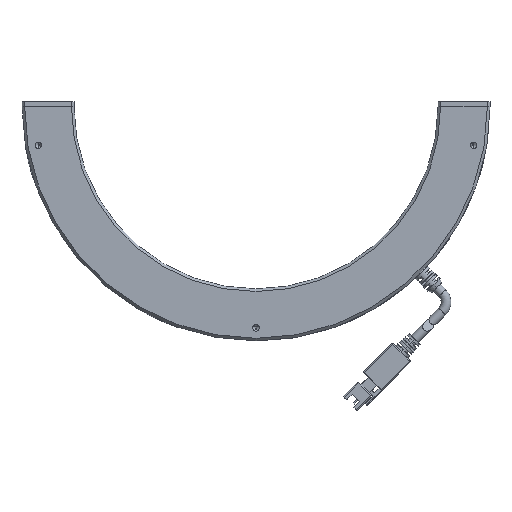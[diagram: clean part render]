
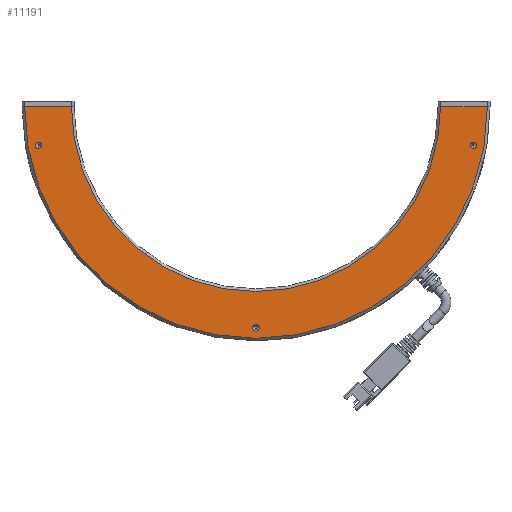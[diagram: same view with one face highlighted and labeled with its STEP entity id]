
A CAD part, front view. The second image highlights one B-rep face of the part: STEP entity #11191.
In plain terms, the highlighted planar face has unit normal (0, -1, 0).
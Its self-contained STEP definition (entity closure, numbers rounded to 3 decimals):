
#594 = DIRECTION ( 'NONE',  ( 0., -1., 0. ) ) ;
#683 = ORIENTED_EDGE ( 'NONE', *, *, #14568, .F. ) ;
#1038 = CARTESIAN_POINT ( 'NONE',  ( 0., 0., -71. ) ) ;
#1086 = DIRECTION ( 'NONE',  ( 0., 0., -1. ) ) ;
#1099 = CIRCLE ( 'NONE', #9356, 89. ) ;
#1392 = VERTEX_POINT ( 'NONE', #5574 ) ;
#1415 = CARTESIAN_POINT ( 'NONE',  ( 83.709, 0., -14.76 ) ) ;
#1708 = EDGE_LOOP ( 'NONE', ( #2687, #12846 ) ) ;
#1729 = FACE_BOUND ( 'NONE', #9754, .T. ) ;
#2021 = EDGE_CURVE ( 'NONE', #6017, #13412, #12619, .T. ) ;
#2196 = AXIS2_PLACEMENT_3D ( 'NONE', #8082, #594, #9327 ) ;
#2221 = CARTESIAN_POINT ( 'NONE',  ( -89., 0., 0. ) ) ;
#2230 = CARTESIAN_POINT ( 'NONE',  ( 0., 0., 0. ) ) ;
#2258 = ORIENTED_EDGE ( 'NONE', *, *, #2348, .F. ) ;
#2320 = CARTESIAN_POINT ( 'NONE',  ( 0., 0., -85. ) ) ;
#2348 = EDGE_CURVE ( 'NONE', #5073, #6273, #14169, .T. ) ;
#2653 = DIRECTION ( 'NONE',  ( 0., 0., -1. ) ) ;
#2687 = ORIENTED_EDGE ( 'NONE', *, *, #2866, .F. ) ;
#2866 = EDGE_CURVE ( 'NONE', #14417, #5428, #11840, .T. ) ;
#3555 = AXIS2_PLACEMENT_3D ( 'NONE', #5604, #14314, #6862 ) ;
#3571 = CARTESIAN_POINT ( 'NONE',  ( 0., 0., 0. ) ) ;
#3576 = CARTESIAN_POINT ( 'NONE',  ( 0., 0., 0. ) ) ;
#3584 = DIRECTION ( 'NONE',  ( 0., 0., -1. ) ) ;
#3677 = VERTEX_POINT ( 'NONE', #2221 ) ;
#4311 = CIRCLE ( 'NONE', #3555, 1.25 ) ;
#4480 = CIRCLE ( 'NONE', #11953, 71. ) ;
#4630 = DIRECTION ( 'NONE',  ( 0., 1., 0. ) ) ;
#4684 = FACE_OUTER_BOUND ( 'NONE', #5868, .T. ) ;
#4851 = DIRECTION ( 'NONE',  ( 0., 0., -1. ) ) ;
#5031 = ORIENTED_EDGE ( 'NONE', *, *, #9862, .F. ) ;
#5073 = VERTEX_POINT ( 'NONE', #13996 ) ;
#5215 = CIRCLE ( 'NONE', #9066, 71. ) ;
#5417 = EDGE_CURVE ( 'NONE', #9830, #3677, #15476, .T. ) ;
#5428 = VERTEX_POINT ( 'NONE', #9793 ) ;
#5574 = CARTESIAN_POINT ( 'NONE',  ( 83.709, 0., -16.01 ) ) ;
#5604 = CARTESIAN_POINT ( 'NONE',  ( -83.709, 0., -14.76 ) ) ;
#5712 = DIRECTION ( 'NONE',  ( 0., 1., 0. ) ) ;
#5868 = EDGE_LOOP ( 'NONE', ( #11160, #14403, #2258, #11631, #13377 ) ) ;
#5946 = VECTOR ( 'NONE', #12304, 1000. ) ;
#6017 = VERTEX_POINT ( 'NONE', #14468 ) ;
#6092 = PLANE ( 'NONE',  #6422 ) ;
#6163 = DIRECTION ( 'NONE',  ( 1., 0., 0. ) ) ;
#6273 = VERTEX_POINT ( 'NONE', #6433 ) ;
#6351 = CARTESIAN_POINT ( 'NONE',  ( -83.709, 0., -14.76 ) ) ;
#6422 = AXIS2_PLACEMENT_3D ( 'NONE', #2230, #8581, #1086 ) ;
#6433 = CARTESIAN_POINT ( 'NONE',  ( 89., 0., 0. ) ) ;
#6862 = DIRECTION ( 'NONE',  ( 0., 0., -1. ) ) ;
#7213 = DIRECTION ( 'NONE',  ( 0., -1., 0. ) ) ;
#7609 = DIRECTION ( 'NONE',  ( 0., 0., -1. ) ) ;
#7996 = FACE_BOUND ( 'NONE', #14162, .T. ) ;
#8069 = EDGE_CURVE ( 'NONE', #5428, #14417, #4311, .T. ) ;
#8082 = CARTESIAN_POINT ( 'NONE',  ( 0., 0., -85. ) ) ;
#8563 = CARTESIAN_POINT ( 'NONE',  ( -83.709, 0., -16.01 ) ) ;
#8581 = DIRECTION ( 'NONE',  ( 0., -1., 0. ) ) ;
#8822 = AXIS2_PLACEMENT_3D ( 'NONE', #2320, #11042, #3584 ) ;
#9066 = AXIS2_PLACEMENT_3D ( 'NONE', #12081, #4630, #13320 ) ;
#9327 = DIRECTION ( 'NONE',  ( 0., 0., -1. ) ) ;
#9356 = AXIS2_PLACEMENT_3D ( 'NONE', #3576, #12309, #4851 ) ;
#9754 = EDGE_LOOP ( 'NONE', ( #15619, #5031 ) ) ;
#9793 = CARTESIAN_POINT ( 'NONE',  ( -83.709, 0., -13.51 ) ) ;
#9830 = VERTEX_POINT ( 'NONE', #14699 ) ;
#9862 = EDGE_CURVE ( 'NONE', #13412, #6017, #10669, .T. ) ;
#10145 = DIRECTION ( 'NONE',  ( 0., -1., 0. ) ) ;
#10216 = AXIS2_PLACEMENT_3D ( 'NONE', #1415, #10145, #2653 ) ;
#10669 = CIRCLE ( 'NONE', #8822, 1.25 ) ;
#10847 = VECTOR ( 'NONE', #6163, 1000. ) ;
#11042 = DIRECTION ( 'NONE',  ( 0., -1., 0. ) ) ;
#11110 = CARTESIAN_POINT ( 'NONE',  ( 0., 0., 0. ) ) ;
#11159 = CARTESIAN_POINT ( 'NONE',  ( 0., 0., -83.75 ) ) ;
#11160 = ORIENTED_EDGE ( 'NONE', *, *, #5417, .T. ) ;
#11191 = ADVANCED_FACE ( 'NONE', ( #11683, #1729, #7996, #4684 ), #6092, .T. ) ;
#11557 = AXIS2_PLACEMENT_3D ( 'NONE', #14660, #7213, #15885 ) ;
#11566 = EDGE_CURVE ( 'NONE', #13990, #9830, #4480, .T. ) ;
#11631 = ORIENTED_EDGE ( 'NONE', *, *, #14856, .T. ) ;
#11635 = CIRCLE ( 'NONE', #10216, 1.25 ) ;
#11683 = FACE_BOUND ( 'NONE', #1708, .T. ) ;
#11840 = CIRCLE ( 'NONE', #15615, 1.25 ) ;
#11953 = AXIS2_PLACEMENT_3D ( 'NONE', #13133, #5712, #14391 ) ;
#12081 = CARTESIAN_POINT ( 'NONE',  ( 0., 0., 0. ) ) ;
#12213 = CIRCLE ( 'NONE', #11557, 1.25 ) ;
#12240 = CARTESIAN_POINT ( 'NONE',  ( 83.709, 0., -13.51 ) ) ;
#12304 = DIRECTION ( 'NONE',  ( -1., 0., 0. ) ) ;
#12309 = DIRECTION ( 'NONE',  ( 0., -1., 0. ) ) ;
#12374 = VERTEX_POINT ( 'NONE', #12240 ) ;
#12387 = EDGE_CURVE ( 'NONE', #3677, #6273, #1099, .T. ) ;
#12619 = CIRCLE ( 'NONE', #2196, 1.25 ) ;
#12665 = ORIENTED_EDGE ( 'NONE', *, *, #12771, .F. ) ;
#12771 = EDGE_CURVE ( 'NONE', #12374, #1392, #12213, .T. ) ;
#12846 = ORIENTED_EDGE ( 'NONE', *, *, #8069, .F. ) ;
#13133 = CARTESIAN_POINT ( 'NONE',  ( 0., 0., 0. ) ) ;
#13320 = DIRECTION ( 'NONE',  ( 0., 0., -1. ) ) ;
#13377 = ORIENTED_EDGE ( 'NONE', *, *, #11566, .T. ) ;
#13412 = VERTEX_POINT ( 'NONE', #11159 ) ;
#13990 = VERTEX_POINT ( 'NONE', #1038 ) ;
#13996 = CARTESIAN_POINT ( 'NONE',  ( 71., 0., 0. ) ) ;
#14162 = EDGE_LOOP ( 'NONE', ( #683, #12665 ) ) ;
#14169 = LINE ( 'NONE', #11110, #10847 ) ;
#14314 = DIRECTION ( 'NONE',  ( 0., -1., 0. ) ) ;
#14391 = DIRECTION ( 'NONE',  ( 0., 0., -1. ) ) ;
#14403 = ORIENTED_EDGE ( 'NONE', *, *, #12387, .T. ) ;
#14417 = VERTEX_POINT ( 'NONE', #8563 ) ;
#14468 = CARTESIAN_POINT ( 'NONE',  ( 0., 0., -86.25 ) ) ;
#14568 = EDGE_CURVE ( 'NONE', #1392, #12374, #11635, .T. ) ;
#14660 = CARTESIAN_POINT ( 'NONE',  ( 83.709, 0., -14.76 ) ) ;
#14699 = CARTESIAN_POINT ( 'NONE',  ( -71., 0., 0. ) ) ;
#14856 = EDGE_CURVE ( 'NONE', #5073, #13990, #5215, .T. ) ;
#15069 = DIRECTION ( 'NONE',  ( 0., -1., 0. ) ) ;
#15476 = LINE ( 'NONE', #3571, #5946 ) ;
#15615 = AXIS2_PLACEMENT_3D ( 'NONE', #6351, #15069, #7609 ) ;
#15619 = ORIENTED_EDGE ( 'NONE', *, *, #2021, .F. ) ;
#15885 = DIRECTION ( 'NONE',  ( 0., 0., -1. ) ) ;
